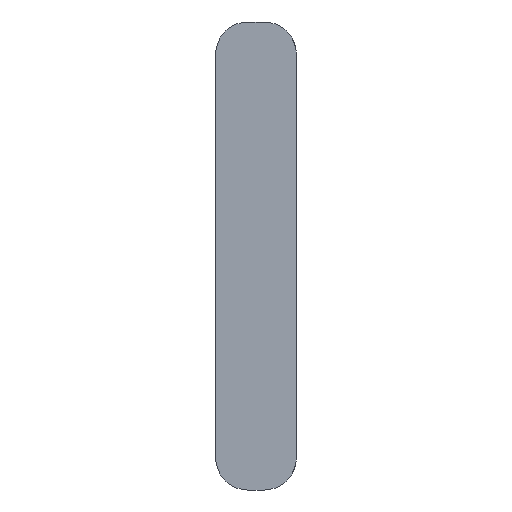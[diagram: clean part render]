
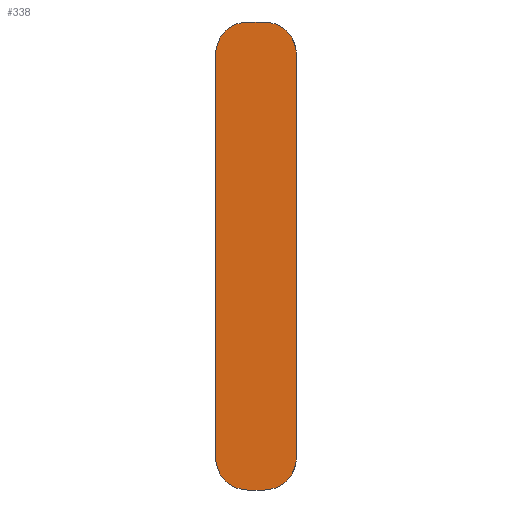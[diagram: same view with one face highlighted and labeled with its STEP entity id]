
A CAD part, front view. The second image highlights one B-rep face of the part: STEP entity #338.
In plain terms, the highlighted planar face has unit normal (0, -1, 0).
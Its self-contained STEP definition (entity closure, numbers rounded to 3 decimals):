
#20=PLANE('',#377);
#28=LINE('',#543,#48);
#34=LINE('',#564,#54);
#41=LINE('',#608,#61);
#42=LINE('',#609,#62);
#48=VECTOR('',#428,37.5);
#54=VECTOR('',#448,1.5);
#61=VECTOR('',#471,1.5);
#62=VECTOR('',#472,37.5);
#100=FACE_OUTER_BOUND('',#127,.T.);
#127=EDGE_LOOP('',(#287,#288,#289,#290,#291,#292,#293,#294));
#143=CIRCLE('',#360,3.);
#150=CIRCLE('',#372,3.);
#152=CIRCLE('',#376,3.);
#153=CIRCLE('',#378,3.);
#165=VERTEX_POINT('',#529);
#166=VERTEX_POINT('',#531);
#170=VERTEX_POINT('',#541);
#178=VERTEX_POINT('',#563);
#179=VERTEX_POINT('',#567);
#184=VERTEX_POINT('',#600);
#185=VERTEX_POINT('',#602);
#186=VERTEX_POINT('',#606);
#197=EDGE_CURVE('',#165,#166,#143,.T.);
#203=EDGE_CURVE('',#170,#165,#28,.T.);
#213=EDGE_CURVE('',#166,#178,#34,.T.);
#215=EDGE_CURVE('',#178,#179,#150,.T.);
#223=EDGE_CURVE('',#184,#185,#152,.T.);
#225=EDGE_CURVE('',#186,#170,#153,.T.);
#226=EDGE_CURVE('',#185,#186,#41,.T.);
#227=EDGE_CURVE('',#179,#184,#42,.T.);
#287=ORIENTED_EDGE('',*,*,#197,.F.);
#288=ORIENTED_EDGE('',*,*,#203,.F.);
#289=ORIENTED_EDGE('',*,*,#225,.F.);
#290=ORIENTED_EDGE('',*,*,#226,.F.);
#291=ORIENTED_EDGE('',*,*,#223,.F.);
#292=ORIENTED_EDGE('',*,*,#227,.F.);
#293=ORIENTED_EDGE('',*,*,#215,.F.);
#294=ORIENTED_EDGE('',*,*,#213,.F.);
#338=ADVANCED_FACE('',(#100),#20,.F.);
#360=AXIS2_PLACEMENT_3D('',#532,#417,#418);
#372=AXIS2_PLACEMENT_3D('',#568,#452,#453);
#376=AXIS2_PLACEMENT_3D('',#603,#464,#465);
#377=AXIS2_PLACEMENT_3D('',#605,#467,#468);
#378=AXIS2_PLACEMENT_3D('',#607,#469,#470);
#417=DIRECTION('center_axis',(0.,1.,0.));
#418=DIRECTION('ref_axis',(0.707,0.,-0.707));
#428=DIRECTION('',(0.,0.,-1.));
#448=DIRECTION('',(-1.,0.,0.));
#452=DIRECTION('center_axis',(0.,1.,0.));
#453=DIRECTION('ref_axis',(-0.707,0.,-0.707));
#464=DIRECTION('center_axis',(0.,1.,0.));
#465=DIRECTION('ref_axis',(-0.707,0.,0.707));
#467=DIRECTION('center_axis',(0.,1.,0.));
#468=DIRECTION('ref_axis',(0.,0.,1.));
#469=DIRECTION('center_axis',(0.,1.,0.));
#470=DIRECTION('ref_axis',(0.707,0.,0.707));
#471=DIRECTION('',(1.,0.,0.));
#472=DIRECTION('',(0.,0.,1.));
#529=CARTESIAN_POINT('',(3.75,0.,-18.75));
#531=CARTESIAN_POINT('',(0.75,0.,-21.75));
#532=CARTESIAN_POINT('Origin',(0.75,0.,-18.75));
#541=CARTESIAN_POINT('',(3.75,0.,18.75));
#543=CARTESIAN_POINT('',(3.75,0.,21.75));
#563=CARTESIAN_POINT('',(-0.75,0.,-21.75));
#564=CARTESIAN_POINT('',(3.75,0.,-21.75));
#567=CARTESIAN_POINT('',(-3.75,0.,-18.75));
#568=CARTESIAN_POINT('Origin',(-0.75,0.,-18.75));
#600=CARTESIAN_POINT('',(-3.75,0.,18.75));
#602=CARTESIAN_POINT('',(-0.75,0.,21.75));
#603=CARTESIAN_POINT('Origin',(-0.75,0.,18.75));
#605=CARTESIAN_POINT('Origin',(1.715,0.,1.715));
#606=CARTESIAN_POINT('',(0.75,0.,21.75));
#607=CARTESIAN_POINT('Origin',(0.75,0.,18.75));
#608=CARTESIAN_POINT('',(-3.75,0.,21.75));
#609=CARTESIAN_POINT('',(-3.75,0.,-21.75));
